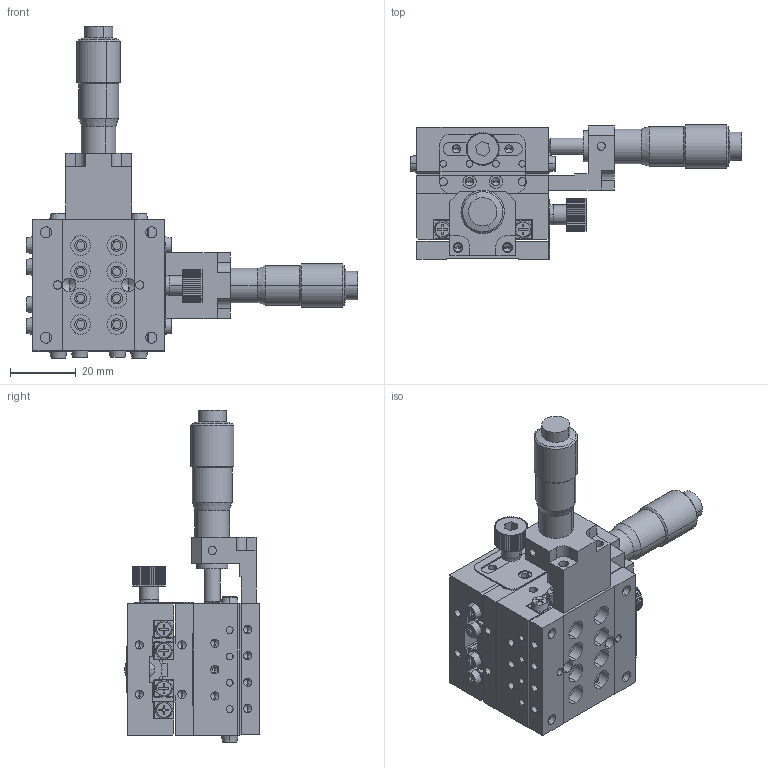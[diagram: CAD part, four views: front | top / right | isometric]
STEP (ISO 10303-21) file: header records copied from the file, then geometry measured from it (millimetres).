
FILE_DESCRIPTION (( 'STEP AP203' ), '1' );
FILE_NAME ('JCXY-40C.STEP', '2019-02-12T00:51:25', ( 'Windows 餌辨濠' ), ( '' ), 'SwSTEP 2.0', 'SolidWorks 2018', '' );
FILE_SCHEMA (( 'CONFIG_CONTROL_DESIGN' ));
Length unit declared in the file: millimetre
Products named in the file (11): FB-JCX-BK-C-01; FC-SJ-3; FB-JCX40(20H)(JV2-40)-BD-02; JV2-40-8; FB-JCX40(20H)(JV2-40)-BD-01; JCXY-40C; JALB-72-R; FC-PL-26X18; JCX-40CR(2OH); FC-NB-10; JCX-40CL(2OH)
Assembly tree (24 placements, depth 3):
  JCXY-40C
    JCX-40CL(2OH)
      FB-JCX40(20H)(JV2-40)-BD-02
      JV2-40-8  x4
      FB-JCX40(20H)(JV2-40)-BD-01
      FC-PL-26X18
      FC-SJ-3
      FC-NB-10
      JALB-72-R
      FB-JCX-BK-C-01
    JCX-40CR(2OH)
      FB-JCX40(20H)(JV2-40)-BD-02
      JV2-40-8  x4
      FB-JCX40(20H)(JV2-40)-BD-01
      FC-PL-26X18
      FC-SJ-3
      FC-NB-10
      FB-JCX-BK-C-01
      JALB-72-R
Bounding box: 100.7 x 40.9 x 100.88 mm (x, y, z)
Volume: 66338.9 mm3; surface area: 49884.5 mm2
Topology: 22 solids, 22 shells, 2020 faces, 5350 edges, 3330 vertices
Faces by surface type: cylinder 1038, plane 786, cone 188, sphere 8
Entity records: 22804 total; most frequent: CARTESIAN_POINT 4043, DIRECTION 3871, ORIENTED_EDGE 3454, EDGE_CURVE 1727, AXIS2_PLACEMENT_3D 1511, VERTEX_POINT 1113, LINE 849, VECTOR 849
